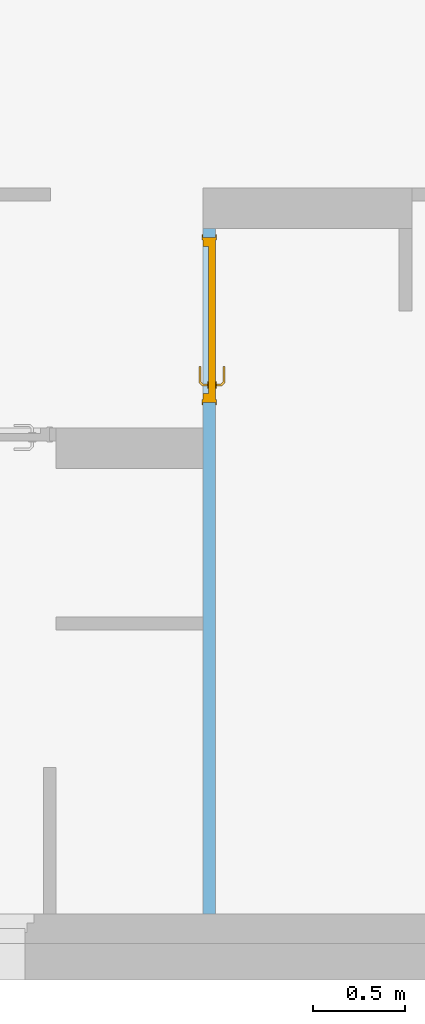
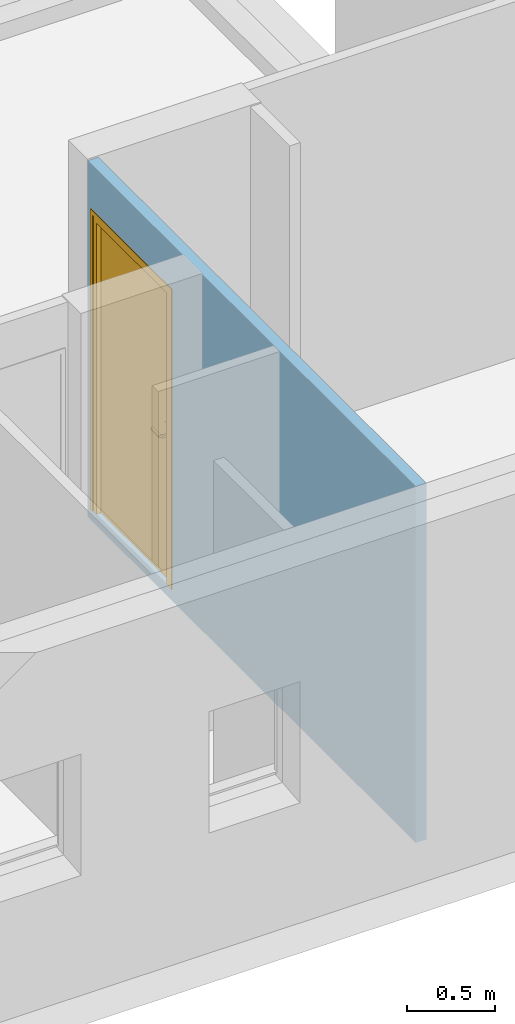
"""IFC2X3 building model written with IfcOpenShell, lengths in centimetres."""

from ifc_helpers import new_model, entity, si_unit, converted_unit, derived_unit, direction, frame, frame_2d, origin, place, context, subcontext, project, spatial, rectangle, extrude, faceted_brep, source, transform, mapped, material, material_list, layer, layer_set, layer_usage, type_object, type_shapes, element, fill, save


model = new_model("IFC2X3")

# Units and contexts
model_context = context("Model", 3, precision=0.001, world=origin(), true_north=direction((6.12303176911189e-17, 1.0)))
body_context = subcontext(model_context, "Body", "Model", "MODEL_VIEW")
ifc_project = project(units=[si_unit("LENGTHUNIT", "METRE", prefix="CENTI"), si_unit("AREAUNIT", "SQUARE_METRE"), si_unit("VOLUMEUNIT", "CUBIC_METRE"), converted_unit("PLANEANGLEUNIT", "DEGREE", entity("IfcRatioMeasure", 0.0174532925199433), si_unit("PLANEANGLEUNIT", "RADIAN"), dimensions=[0, 0, 0, 0, 0, 0, 0]), si_unit("MASSUNIT", "GRAM", prefix="KILO"), derived_unit("MASSDENSITYUNIT", [(si_unit("MASSUNIT", "GRAM", prefix="KILO"), 1), (si_unit("LENGTHUNIT", "METRE"), -3)]), derived_unit("MOMENTOFINERTIAUNIT", [(si_unit("LENGTHUNIT", "METRE"), 4)]), si_unit("TIMEUNIT", "SECOND"), si_unit("FREQUENCYUNIT", "HERTZ"), si_unit("THERMODYNAMICTEMPERATUREUNIT", "DEGREE_CELSIUS"), derived_unit("THERMALTRANSMITTANCEUNIT", [(si_unit("MASSUNIT", "GRAM", prefix="KILO"), 1), (si_unit("THERMODYNAMICTEMPERATUREUNIT", "KELVIN"), -1), (si_unit("TIMEUNIT", "SECOND"), -3)]), derived_unit("VOLUMETRICFLOWRATEUNIT", [(si_unit("LENGTHUNIT", "METRE"), 3), (si_unit("TIMEUNIT", "SECOND"), -1)]), si_unit("ELECTRICCURRENTUNIT", "AMPERE"), si_unit("ELECTRICVOLTAGEUNIT", "VOLT"), si_unit("POWERUNIT", "WATT"), si_unit("FORCEUNIT", "NEWTON", prefix="KILO"), si_unit("ILLUMINANCEUNIT", "LUX"), si_unit("LUMINOUSFLUXUNIT", "LUMEN"), si_unit("LUMINOUSINTENSITYUNIT", "CANDELA"), derived_unit("USERDEFINED", [(si_unit("MASSUNIT", "GRAM", prefix="KILO"), -1), (si_unit("LENGTHUNIT", "METRE"), -2), (si_unit("TIMEUNIT", "SECOND"), 3), (si_unit("LUMINOUSFLUXUNIT", "LUMEN"), 1)]), derived_unit("LINEARVELOCITYUNIT", [(si_unit("LENGTHUNIT", "METRE"), 1), (si_unit("TIMEUNIT", "SECOND"), -1)]), si_unit("PRESSUREUNIT", "PASCAL"), derived_unit("USERDEFINED", [(si_unit("LENGTHUNIT", "METRE"), -2), (si_unit("MASSUNIT", "GRAM", prefix="KILO"), 1), (si_unit("TIMEUNIT", "SECOND"), -2)]), derived_unit("LINEARFORCEUNIT", [(si_unit("MASSUNIT", "GRAM", prefix="KILO"), 1), (si_unit("LENGTHUNIT", "METRE"), 1), (si_unit("TIMEUNIT", "SECOND"), -2), (si_unit("LENGTHUNIT", "METRE"), -1)]), derived_unit("PLANARFORCEUNIT", [(si_unit("MASSUNIT", "GRAM", prefix="KILO"), 1), (si_unit("LENGTHUNIT", "METRE"), 1), (si_unit("TIMEUNIT", "SECOND"), -2), (si_unit("LENGTHUNIT", "METRE"), -2)])], contexts=[model_context])

# Site, building, storey
site_placement = place(None, origin())
site = spatial("IfcSite", under=ifc_project, at=site_placement, Name="Surface", CompositionType="ELEMENT")
building_placement = place(site_placement, origin())
building = spatial("IfcBuilding", under=site, at=building_placement, CompositionType="ELEMENT")
storey_1_placement = place(building_placement, frame((0.0, 0.0, -8.0)))
storey_1 = spatial("IfcBuildingStorey", under=building, at=storey_1_placement, Name="-0.08_Dessus plancher", CompositionType="ELEMENT", Elevation=-8.0)

# Wall, openings
ifc_material_1 = material(Name="Mur par défaut")
ifc_layer = layer(ifc_material_1, 7.0)
ifc_layer_set = layer_set([ifc_layer], Name="Mur de base:Cloison 7cm")
ifc_layer_usage = layer_usage(ifc_layer_set, "AXIS2", "POSITIVE", -3.5)
wall_type = type_object("IfcWallType", Name="Mur de base:Cloison 7cm", PredefinedType="STANDARD", material=ifc_layer_set)
wall_placement = place(storey_1_placement, frame((-991.677260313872, 250.992317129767, 0.0), z_axis=(0.0, 0.0, 1.0), x_axis=(0.0, -1.0, 0.0)))
wall = element("IfcWallStandardCase", 1, at=wall_placement, inside=storey_1, type_object=wall_type, material=ifc_layer_usage, Name="Mur de base:Cloison 7cm", ObjectType="Mur de base:Cloison 7cm", context=body_context, shape_type="SweptSolid", body=[
    extrude(rectangle(XDim=373.999999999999, YDim=7.00000000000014, at=frame_2d((186.999999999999, -5.24025267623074e-14), x_axis=(-1.0, 0.0))), origin(), (0.0, 0.0, 1.0), 248.0),
])
opening_1_placement = place(wall_placement, frame((250.992317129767, 991.677260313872, 8.0), z_axis=(0.0, 0.0, 1.0), x_axis=(0.0, 1.0, 0.0)))
element("IfcOpeningElement", 2, at=opening_1_placement, cuts=wall, Name="Mur de base:Cloison 7cm", ObjectType="Opening", context=body_context, shape_type="SweptSolid", body=[
    extrude(rectangle(XDim=207.5, YDim=90.0, at=frame_2d((-1.4210854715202e-14, 1.4210854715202e-14), x_axis=(1.0, 0.0))), frame((-1140.57726031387, 200.992317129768, 103.75), z_axis=(1.0, 0.0, 0.0), x_axis=(0.0, 0.0, 1.0)), (0.0, 0.0, 1.0), 304.8),
])
opening_2_placement = place(wall_placement, frame((5.0, -3.50000000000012, 8.0)))
opening_2 = element("IfcOpeningElement", 3, at=opening_2_placement, cuts=wall, Name="Int. Simple:PP (0.83m x 2.04m):1", ObjectType="Opening", context=body_context, shape_type="SweptSolid", body=[
    extrude(rectangle(XDim=207.5, YDim=90.0, at=frame_2d((103.75, 45.0), x_axis=(1.0, 0.0))), frame((0.0, 0.0, 0.0), z_axis=(0.0, 1.0, 0.0), x_axis=(0.0, 0.0, 1.0)), (0.0, 0.0, 1.0), 7.0),
])

# Storey
storey_2_placement = place(building_placement, origin())
storey_2 = spatial("IfcBuildingStorey", under=building, at=storey_2_placement, Name="1_Rez-de-chaussée", CompositionType="ELEMENT", Elevation=-7.93413063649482e-11)

# Door
ifc_material_2 = material(Name="Finition Peinture - Blanc satiné")
ifc_material_3 = material(Name="Bois - Panneau de porte")
ifc_material_4 = material(Name="Bois - Cadre de porte")
ifc_material_list_1 = material_list([ifc_material_2, ifc_material_3, ifc_material_4])
ifc_material_list_2 = material_list([ifc_material_4, ifc_material_2, ifc_material_3])
door_style = type_object("IfcDoorStyle", Name="Int. Simple:PP (0.83m x 2.04m)", ConstructionType="NOTDEFINED", OperationType="NOTDEFINED", ParameterTakesPrecedence=False, Sizeable=False, material=ifc_material_list_2)
shared_shape = source(origin(), body_context, "Body", "Brep", [
    faceted_brep([(10.5352761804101, -0.500000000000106, 86.6003983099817), (11.5, -0.500000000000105, 87.0), (11.4999999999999, -0.500000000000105, 108.0), (10.53527618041, -0.500000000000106, 108.399601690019), (9.4999999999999, -0.500000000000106, 108.535898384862), (8.46472381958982, -0.500000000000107, 108.399601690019), (7.49999999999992, -0.500000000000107, 108.0), (7.50000000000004, -0.500000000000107, 87.0), (8.46472381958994, -0.500000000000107, 86.6003983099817), (9.50000000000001, -0.500000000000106, 86.464101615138), (10.53527618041, 0.0, 108.399601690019), (11.4999999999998, 0.0, 108.0), (11.5, 0.0, 87.0), (10.5352761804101, 0.0, 86.6003983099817), (9.50000000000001, 0.0, 86.464101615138), (8.46472381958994, 0.0, 86.6003983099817), (7.49999999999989, 0.0, 87.0), (7.49999999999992, 0.0, 108.0), (8.46472381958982, 0.0, 108.399601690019), (9.4999999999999, 0.0, 108.535898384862)], [[[0, 1, 2, 3, 4, 5, 6, 7, 8, 9]], [[10, 11, 12, 13, 14, 15, 16, 17, 18, 19]], [[16, 15, 8, 7]], [[8, 15, 14, 9]], [[14, 13, 0, 9]], [[13, 12, 1, 0]], [[2, 1, 12, 11]], [[11, 10, 3, 2]], [[3, 10, 19, 4]], [[19, 18, 5, 4]], [[18, 17, 6, 5]], [[7, 6, 17, 16]]]),
    faceted_brep([(10.5352761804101, 4.0, 86.6003983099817), (11.5, 4.0, 87.0), (11.4999999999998, 4.0, 108.0), (10.5352761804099, 4.0, 108.399601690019), (9.49999999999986, 4.0, 108.535898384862), (8.4647238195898, 4.0, 108.399601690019), (7.49999999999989, 4.0, 108.0), (7.50000000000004, 4.0, 87.0), (8.46472381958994, 4.0, 86.6003983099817), (9.50000000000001, 4.0, 86.464101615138), (10.5352761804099, 4.49999999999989, 108.399601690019), (11.4999999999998, 4.49999999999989, 108.0), (11.5, 4.49999999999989, 87.0), (10.5352761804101, 4.49999999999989, 86.6003983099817), (9.50000000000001, 4.49999999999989, 86.464101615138), (8.46472381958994, 4.49999999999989, 86.6003983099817), (7.49999999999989, 4.49999999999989, 87.0), (7.49999999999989, 4.49999999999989, 108.0), (8.4647238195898, 4.49999999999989, 108.399601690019), (9.49999999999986, 4.49999999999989, 108.535898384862)], [[[0, 1, 2, 3, 4, 5, 6, 7, 8, 9]], [[10, 11, 12, 13, 14, 15, 16, 17, 18, 19]], [[11, 10, 3, 2]], [[3, 10, 19, 4]], [[19, 18, 5, 4]], [[18, 17, 6, 5]], [[7, 6, 17, 16]], [[16, 15, 8, 7]], [[8, 15, 14, 9]], [[14, 13, 0, 9]], [[13, 12, 1, 0]], [[2, 1, 12, 11]]]),
    faceted_brep([(9.29747013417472, -0.500000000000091, 100.778044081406), (9.70252986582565, -0.50000000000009, 100.778044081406), (10.1000000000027, -0.500000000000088, 100.699999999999), (10.1000000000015, -0.500000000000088, 99.3000000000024), (9.70252986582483, -0.50000000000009, 99.2219559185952), (9.29747013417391, -0.500000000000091, 99.221955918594), (8.89999999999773, -0.500000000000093, 99.2999999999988), (8.89999999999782, -0.500000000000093, 100.7), (8.89999999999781, -3.26509507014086, 100.7), (9.2974701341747, -3.10045754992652, 100.778044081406), (10.902358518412, -4.70534593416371, 100.778044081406), (11.0701397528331, -4.30028620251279, 100.778044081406), (9.70252986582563, -2.93267631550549, 100.778044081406), (10.1000000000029, -2.76803879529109, 100.7), (10.1000000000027, -2.76803879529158, 99.3000000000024), (9.70252986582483, -2.93267631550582, 99.2219559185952), (11.0701397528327, -4.30028620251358, 99.2219559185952), (10.9023585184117, -4.70534593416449, 99.221955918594), (9.29747013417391, -3.10045754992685, 99.221955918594), (8.89999999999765, -3.26509507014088, 99.2999999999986), (10.7377209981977, -5.10281606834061, 100.7), (11.2347772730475, -3.90281606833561, 100.7), (11.2347772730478, -3.90281606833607, 99.3000000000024), (10.7377209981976, -5.10281606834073, 99.2999999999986), (19.5018640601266, -5.10281606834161, 99.2999999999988), (19.5018640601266, -4.70534593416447, 99.221955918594), (19.5018640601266, -4.30028620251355, 99.2219559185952), (19.5018640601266, -3.9028160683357, 99.3000000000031), (19.5018640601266, -3.90281606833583, 100.7), (19.5018640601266, -4.30028620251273, 100.778044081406), (19.5018640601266, -4.70534593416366, 100.778044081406), (19.5018640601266, -5.10281606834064, 100.699999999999), (14.7307697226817, -5.10281606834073, 100.7), (15.2860019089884, -4.5028160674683, 100.78786867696), (15.368320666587, -3.9028160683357, 100.7), (15.3683206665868, -3.9028160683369, 99.3000000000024), (15.2860018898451, -4.50281607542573, 99.2121313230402), (14.7307700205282, -5.10281606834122, 99.2999999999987)], [[[0, 1, 2, 3, 4, 5, 6, 7]], [[8, 9, 0, 7]], [[9, 10, 11, 12, 1, 0]], [[12, 13, 2, 1]], [[3, 2, 13, 14]], [[14, 15, 4, 3]], [[15, 16, 17, 18, 5, 4]], [[18, 19, 6, 5]], [[7, 6, 19, 8]], [[20, 10, 9, 8]], [[11, 21, 13, 12]], [[14, 13, 21, 22]], [[22, 16, 15, 14]], [[17, 23, 19, 18]], [[8, 19, 23, 20]], [[24, 25, 26, 27, 28, 29, 30, 31]], [[32, 30, 33]], [[31, 30, 32]], [[10, 20, 32]], [[33, 34, 11]], [[21, 11, 34]], [[34, 29, 28]], [[30, 29, 33]], [[29, 34, 33]], [[10, 32, 33]], [[10, 33, 11]], [[22, 21, 34, 28, 27, 35]], [[35, 26, 36]], [[37, 36, 25]], [[22, 35, 16]], [[35, 27, 26]], [[24, 37, 25]], [[23, 17, 37]], [[37, 17, 36]], [[17, 16, 36]], [[16, 35, 36]], [[25, 36, 26]], [[20, 23, 37, 24, 31, 32]]]),
    faceted_brep([(9.29747013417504, 4.49999999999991, 100.778044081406), (8.89999999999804, 4.4999999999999, 100.7), (8.89999999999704, 4.4999999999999, 99.2999999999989), (9.29747013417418, 4.49999999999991, 99.221955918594), (9.70252986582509, 4.49999999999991, 99.2219559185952), (10.100000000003, 4.49999999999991, 99.3000000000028), (10.1000000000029, 4.49999999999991, 100.7), (9.70252986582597, 4.49999999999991, 100.778044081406), (10.100000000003, 6.7485204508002, 99.3000000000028), (10.100000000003, 6.74852045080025, 100.7), (9.70252986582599, 6.91315797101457, 100.778044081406), (11.0838906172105, 8.29451872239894, 100.778044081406), (10.9161093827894, 8.69957845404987, 100.778044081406), (9.29747013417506, 7.0809392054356, 100.778044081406), (8.89999999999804, 7.24557672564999, 100.7), (8.89999999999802, 7.2455767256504, 99.2999999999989), (9.29747013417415, 7.08093920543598, 99.221955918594), (10.9161093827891, 8.69957845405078, 99.221955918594), (11.0838906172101, 8.29451872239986, 99.2219559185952), (9.70252986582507, 6.91315797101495, 99.2219559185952), (11.2485281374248, 7.89704858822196, 99.3000000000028), (11.2485281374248, 7.89704858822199, 100.7), (10.7514718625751, 9.09704858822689, 100.7), (10.7514718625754, 9.0970485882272, 99.2999999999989), (19.5045783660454, 7.89704858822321, 99.3000000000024), (19.5045783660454, 8.29451872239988, 99.2219559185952), (19.5045783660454, 8.6995784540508, 99.221955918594), (19.5045783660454, 9.09704858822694, 99.2999999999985), (19.5045783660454, 9.09704858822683, 100.7), (19.5045783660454, 8.69957845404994, 100.778044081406), (19.5045783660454, 8.29451872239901, 100.778044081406), (19.5045783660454, 7.89704858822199, 100.7), (15.3765520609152, 7.89704858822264, 99.3000000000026), (15.3765532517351, 7.89704858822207, 100.7), (15.2942344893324, 8.49704858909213, 100.78786867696), (14.7445205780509, 9.09704858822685, 100.7), (14.7445204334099, 9.09704858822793, 99.2999999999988), (15.2942345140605, 8.49704858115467, 99.2121313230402)], [[[0, 1, 2, 3, 4, 5, 6, 7]], [[6, 5, 8, 9]], [[9, 10, 7, 6]], [[10, 11, 12, 13, 0, 7]], [[13, 14, 1, 0]], [[2, 1, 14, 15]], [[15, 16, 3, 2]], [[16, 17, 18, 19, 4, 3]], [[19, 8, 5, 4]], [[9, 8, 20, 21]], [[21, 11, 10, 9]], [[12, 22, 14, 13]], [[15, 14, 22, 23]], [[23, 17, 16, 15]], [[18, 20, 8, 19]], [[24, 25, 26, 27, 28, 29, 30, 31]], [[21, 20, 32, 24, 31, 33]], [[33, 30, 34]], [[35, 34, 29]], [[21, 33, 11]], [[33, 31, 30]], [[28, 35, 29]], [[22, 12, 35]], [[35, 12, 34]], [[12, 11, 34]], [[11, 33, 34]], [[29, 34, 30]], [[22, 35, 28, 27, 36, 23]], [[36, 26, 37]], [[27, 26, 36]], [[17, 23, 36]], [[37, 32, 18]], [[20, 18, 32]], [[32, 25, 24]], [[26, 25, 37]], [[25, 32, 37]], [[17, 36, 37]], [[17, 37, 18]]]),
    faceted_brep([(3.4999999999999, 4.0, 204.0), (86.5, 4.0, 204.0), (86.4999999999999, 4.0, 0.0), (3.4999999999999, 4.0, 0.0), (3.4999999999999, 0.0, 204.0), (3.4999999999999, 0.0, 0.0), (86.4999999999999, 0.0, 0.0), (86.5, 0.0, 204.0)], [[[0, 1, 2, 3]], [[4, 5, 6, 7]], [[1, 0, 4, 7]], [[2, 1, 7, 6]], [[3, 2, 6, 5]], [[0, 3, 5, 4]]]),
    faceted_brep([(0.0, 0.0, 0.0), (0.0, 7.0, 0.0), (5.0, 7.0, 0.0), (5.0, 4.0, 0.0), (3.49999999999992, 4.0, 0.0), (3.49999999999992, 0.0, 0.0), (0.0, 0.0, 207.500000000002), (0.0, 7.0, 207.500000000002), (90.0, 7.0, 207.500000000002), (90.0, 7.0, 0.0), (85.0, 7.0, 0.0), (85.0, 7.0, 202.5), (5.0, 7.0, 202.5), (5.0, 4.0, 202.5), (85.0, 4.0, 202.5), (85.0, 4.0, 0.0), (86.5000000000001, 4.0, 0.0), (86.5000000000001, 4.0, 204.0), (3.49999999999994, 4.0, 204.0), (3.49999999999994, 0.0, 204.0), (86.5000000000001, 0.0, 204.0), (86.5000000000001, 0.0, 0.0), (90.0, 0.0, 0.0), (90.0, 0.0, 207.500000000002)], [[[0, 1, 2, 3, 4, 5]], [[1, 0, 6, 7]], [[2, 1, 7, 8, 9, 10, 11, 12]], [[3, 2, 12, 13]], [[4, 3, 13, 14, 15, 16, 17, 18]], [[5, 4, 18, 19]], [[0, 5, 19, 20, 21, 22, 23, 6]], [[8, 23, 22, 9]], [[22, 21, 16, 15, 10, 9]], [[14, 11, 10, 15]], [[20, 17, 16, 21]], [[7, 6, 23, 8]], [[13, 12, 11, 14]], [[19, 18, 17, 20]]]),
    faceted_brep([(1.49999999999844, 7.0, 0.0), (-1.50000000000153, 7.0, 0.0), (-1.50000000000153, 7.49999999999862, 0.0), (1.49999999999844, 7.49999999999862, 0.0), (1.49999999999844, 7.0, 206.0), (88.499999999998, 7.0, 206.0), (88.499999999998, 7.0, 0.0), (91.499999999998, 7.0, 0.0), (91.499999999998, 7.0, 209.0), (-1.50000000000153, 7.0, 209.0), (-1.50000000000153, 7.49999999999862, 209.0), (91.499999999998, 7.49999999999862, 209.0), (91.499999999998, 7.49999999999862, 0.0), (88.499999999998, 7.49999999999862, 0.0), (88.499999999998, 7.49999999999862, 206.0), (1.49999999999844, 7.49999999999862, 206.0)], [[[0, 1, 2, 3]], [[1, 0, 4, 5, 6, 7, 8, 9]], [[2, 1, 9, 10]], [[3, 2, 10, 11, 12, 13, 14, 15]], [[0, 3, 15, 4]], [[6, 13, 12, 7]], [[5, 14, 13, 6]], [[11, 8, 7, 12]], [[10, 9, 8, 11]], [[4, 15, 14, 5]]]),
    faceted_brep([(-1.50000000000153, -0.499999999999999, 0.0), (1.49999999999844, -0.499999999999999, 0.0), (1.49999999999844, -0.499999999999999, 206.0), (88.499999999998, -0.499999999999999, 206.0), (88.499999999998, -0.499999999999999, 0.0), (91.499999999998, -0.499999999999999, 0.0), (91.499999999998, -0.499999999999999, 209.0), (-1.50000000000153, -0.499999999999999, 209.0), (-1.50000000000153, 0.0, 0.0), (-1.50000000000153, 0.0, 209.0), (1.49999999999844, 0.0, 0.0), (91.499999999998, 0.0, 209.0), (91.499999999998, 0.0, 0.0), (88.499999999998, 0.0, 0.0), (88.499999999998, 0.0, 206.0), (1.49999999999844, 0.0, 206.0)], [[[0, 1, 2, 3, 4, 5, 6, 7]], [[8, 0, 7, 9]], [[10, 8, 9, 11, 12, 13, 14, 15]], [[1, 10, 15, 2]], [[3, 14, 13, 4]], [[11, 6, 5, 12]], [[9, 7, 6, 11]], [[2, 15, 14, 3]], [[4, 13, 12, 5]], [[1, 0, 8, 10]]]),
])
type_shapes(door_style, [shared_shape])
door_placement = place(opening_2_placement, frame((90.0, 7.0, 0.0), z_axis=(0.0, 0.0, 1.0), x_axis=(-1.0, 0.0, 0.0)))
door = element("IfcDoor", 4, at=door_placement, inside=storey_2, type_object=door_style, material=ifc_material_list_1, Name="Int. Simple:PP (0.83m x 2.04m)", ObjectType="Int. Simple:PP (0.83m x 2.04m)", OverallHeight=207.5, OverallWidth=90.0, context=body_context, shape_type="MappedRepresentation", body=[
    mapped(shared_shape, transform((0.0, 0.0, 0.0), scale=1.0)),
])

fill(opening_2, door)

save(model, "model.ifc")
